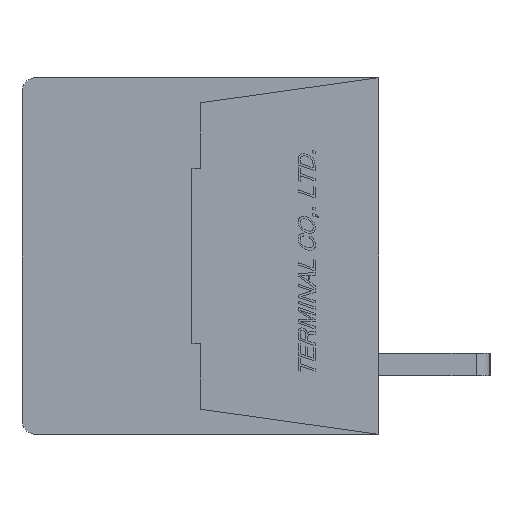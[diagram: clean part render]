
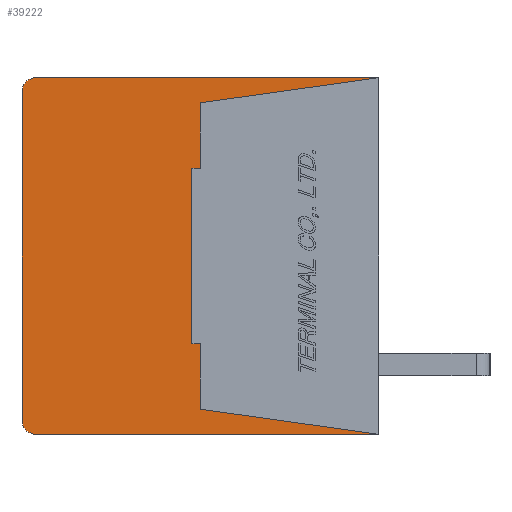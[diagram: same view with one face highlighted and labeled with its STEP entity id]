
A CAD part, left-side view. The second image highlights one B-rep face of the part: STEP entity #39222.
In plain terms, the highlighted planar face has unit normal (-1, 0, 0).
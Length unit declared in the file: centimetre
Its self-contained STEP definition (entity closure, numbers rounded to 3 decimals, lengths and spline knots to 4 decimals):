
#2021=CIRCLE('',#67098,0.05);
#2022=CIRCLE('',#67101,0.05);
#3612=VERTEX_POINT('',#54739);
#3613=VERTEX_POINT('',#54741);
#3614=VERTEX_POINT('',#54745);
#3615=VERTEX_POINT('',#54749);
#3616=VERTEX_POINT('',#54753);
#3617=VERTEX_POINT('',#54757);
#3618=VERTEX_POINT('',#54760);
#3619=VERTEX_POINT('',#54762);
#3620=VERTEX_POINT('',#54764);
#3621=VERTEX_POINT('',#54766);
#3622=VERTEX_POINT('',#54768);
#3623=VERTEX_POINT('',#54770);
#7711=VECTOR('',#45502,1.);
#7715=VECTOR('',#45511,1.);
#7718=VECTOR('',#45519,1.);
#7719=VECTOR('',#45520,1.);
#7720=VECTOR('',#45521,1.);
#7721=VECTOR('',#45522,1.);
#7722=VECTOR('',#45523,1.);
#7723=VECTOR('',#45524,1.);
#7724=VECTOR('',#45525,1.);
#7725=VECTOR('',#45526,1.);
#12324=LINE('',#54740,#7711);
#12328=LINE('',#54750,#7715);
#12331=LINE('',#54758,#7718);
#12332=LINE('',#54759,#7719);
#12333=LINE('',#54761,#7720);
#12334=LINE('',#54763,#7721);
#12335=LINE('',#54765,#7722);
#12336=LINE('',#54767,#7723);
#12337=LINE('',#54769,#7724);
#12338=LINE('',#54771,#7725);
#17503=EDGE_CURVE('',#3613,#3612,#12324,.T.);
#17506=EDGE_CURVE('',#3614,#3612,#2021,.T.);
#17508=EDGE_CURVE('',#3614,#3615,#12328,.T.);
#17510=EDGE_CURVE('',#3616,#3615,#2022,.T.);
#17512=EDGE_CURVE('',#3616,#3617,#12331,.T.);
#17513=EDGE_CURVE('',#3618,#3613,#12332,.T.);
#17514=EDGE_CURVE('',#3617,#3619,#12333,.T.);
#17515=EDGE_CURVE('',#3619,#3620,#12334,.T.);
#17516=EDGE_CURVE('',#3620,#3621,#12335,.T.);
#17517=EDGE_CURVE('',#3621,#3622,#12336,.T.);
#17518=EDGE_CURVE('',#3622,#3623,#12337,.T.);
#17519=EDGE_CURVE('',#3623,#3618,#12338,.T.);
#25420=ORIENTED_EDGE('',*,*,#17513,.T.);
#25421=ORIENTED_EDGE('',*,*,#17503,.T.);
#25422=ORIENTED_EDGE('',*,*,#17506,.F.);
#25423=ORIENTED_EDGE('',*,*,#17508,.T.);
#25424=ORIENTED_EDGE('',*,*,#17510,.F.);
#25425=ORIENTED_EDGE('',*,*,#17512,.T.);
#25426=ORIENTED_EDGE('',*,*,#17514,.T.);
#25427=ORIENTED_EDGE('',*,*,#17515,.T.);
#25428=ORIENTED_EDGE('',*,*,#17516,.T.);
#25429=ORIENTED_EDGE('',*,*,#17517,.T.);
#25430=ORIENTED_EDGE('',*,*,#17518,.T.);
#25431=ORIENTED_EDGE('',*,*,#17519,.T.);
#34172=EDGE_LOOP('',(#25420,#25421,#25422,#25423,#25424,#25425,#25426,#25427,
#25428,#25429,#25430,#25431));
#36751=FACE_BOUND('',#34172,.T.);
#39222=ADVANCED_FACE('',(#36751),#41346,.F.);
#41346=PLANE('',#67095);
#45388=DIRECTION('',(1.,0.,0.));
#45502=DIRECTION('',(0.,1.,0.));
#45507=DIRECTION('',(1.,0.,0.));
#45508=DIRECTION('',(0.,0.,-0.05));
#45511=DIRECTION('',(0.,0.,-1.));
#45515=DIRECTION('',(1.,0.,0.));
#45516=DIRECTION('',(0.,0.,-0.05));
#45519=DIRECTION('',(0.,-1.,0.));
#45520=DIRECTION('',(0.,-0.99,0.139));
#45521=DIRECTION('',(0.,0.99,0.139));
#45522=DIRECTION('',(0.,0.,1.));
#45523=DIRECTION('',(0.,1.,0.));
#45524=DIRECTION('',(0.,0.,1.));
#45525=DIRECTION('',(0.,-1.,0.));
#45526=DIRECTION('',(0.,0.,1.));
#54306=CARTESIAN_POINT('',(-0.889,0.6345,0.));
#54739=CARTESIAN_POINT('',(-0.889,1.23,0.64));
#54740=CARTESIAN_POINT('',(-0.889,0.,0.64));
#54741=CARTESIAN_POINT('',(-0.889,0.,0.64));
#54745=CARTESIAN_POINT('',(-0.889,1.28,0.59));
#54746=CARTESIAN_POINT('',(-0.889,1.23,0.59));
#54749=CARTESIAN_POINT('',(-0.889,1.28,-0.59));
#54750=CARTESIAN_POINT('',(-0.889,1.28,0.59));
#54753=CARTESIAN_POINT('',(-0.889,1.23,-0.64));
#54754=CARTESIAN_POINT('',(-0.889,1.23,-0.59));
#54757=CARTESIAN_POINT('',(-0.889,0.,-0.64));
#54758=CARTESIAN_POINT('',(-0.889,1.23,-0.64));
#54759=CARTESIAN_POINT('',(-0.889,0.64,0.55));
#54760=CARTESIAN_POINT('',(-0.889,0.64,0.55));
#54761=CARTESIAN_POINT('',(-0.889,0.,-0.64));
#54762=CARTESIAN_POINT('',(-0.889,0.64,-0.55));
#54763=CARTESIAN_POINT('',(-0.889,0.64,-0.55));
#54764=CARTESIAN_POINT('',(-0.889,0.64,-0.315));
#54765=CARTESIAN_POINT('',(-0.889,0.64,-0.315));
#54766=CARTESIAN_POINT('',(-0.889,0.67,-0.315));
#54767=CARTESIAN_POINT('',(-0.889,0.67,-0.315));
#54768=CARTESIAN_POINT('',(-0.889,0.67,0.315));
#54769=CARTESIAN_POINT('',(-0.889,0.67,0.315));
#54770=CARTESIAN_POINT('',(-0.889,0.64,0.315));
#54771=CARTESIAN_POINT('',(-0.889,0.64,0.315));
#67095=AXIS2_PLACEMENT_3D('',#54306,#45388,$);
#67098=AXIS2_PLACEMENT_3D('',#54746,#45507,#45508);
#67101=AXIS2_PLACEMENT_3D('',#54754,#45515,#45516);
